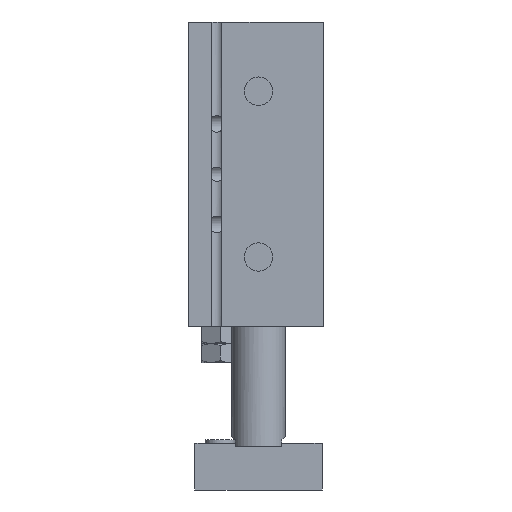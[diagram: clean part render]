
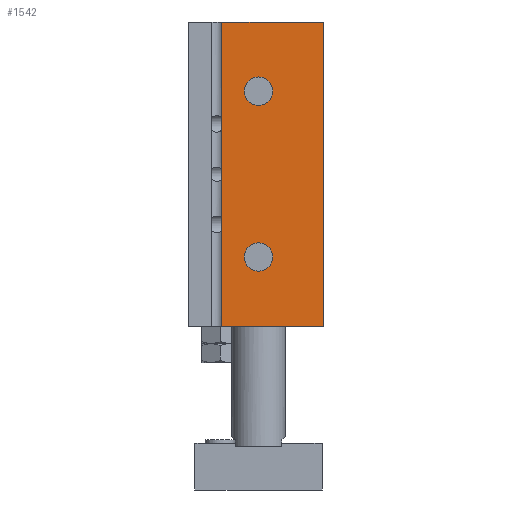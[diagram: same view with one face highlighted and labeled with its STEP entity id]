
A CAD part, front view. The second image highlights one B-rep face of the part: STEP entity #1542.
In plain terms, the highlighted planar face has unit normal (0, -1, 0).
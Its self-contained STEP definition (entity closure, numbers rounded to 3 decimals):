
#1380=CARTESIAN_POINT('',(-11.,-48.,140.0));
#1381=VERTEX_POINT('',#1380);
#1389=CARTESIAN_POINT('',(-11.,-48.,49.));
#1390=VERTEX_POINT('',#1389);
#1397=CARTESIAN_POINT('',(-11.,-48.,140.0));
#1398=DIRECTION('',(0.0,0.0,-1.0));
#1399=VECTOR('',#1398,91.);
#1400=LINE('',#1397,#1399);
#1401=EDGE_CURVE('',#1381,#1390,#1400,.T.);
#1490=CARTESIAN_POINT('',(19.5,-48.,49.0));
#1491=DIRECTION('',(0.0,-1.0,0.0));
#1492=DIRECTION('',(0.0,0.0,-1.0));
#1493=AXIS2_PLACEMENT_3D('',#1490,#1491,#1492);
#1494=PLANE('',#1493);
#1495=ORIENTED_EDGE('',*,*,#1401,.T.);
#1496=CARTESIAN_POINT('',(19.5,-48.,49.0));
#1497=VERTEX_POINT('',#1496);
#1498=CARTESIAN_POINT('',(19.5,-48.,49.0));
#1499=DIRECTION('',(-1.0,0.0,0.0));
#1500=VECTOR('',#1499,30.5);
#1501=LINE('',#1498,#1500);
#1502=EDGE_CURVE('',#1497,#1390,#1501,.T.);
#1503=ORIENTED_EDGE('',*,*,#1502,.F.);
#1504=CARTESIAN_POINT('',(19.5,-48.,140.0));
#1505=VERTEX_POINT('',#1504);
#1506=CARTESIAN_POINT('',(19.5,-48.,49.0));
#1507=DIRECTION('',(0.0,0.0,1.0));
#1508=VECTOR('',#1507,91.0);
#1509=LINE('',#1506,#1508);
#1510=EDGE_CURVE('',#1497,#1505,#1509,.T.);
#1511=ORIENTED_EDGE('',*,*,#1510,.T.);
#1512=CARTESIAN_POINT('',(19.5,-48.,140.0));
#1513=DIRECTION('',(-1.0,0.0,0.0));
#1514=VECTOR('',#1513,30.5);
#1515=LINE('',#1512,#1514);
#1516=EDGE_CURVE('',#1505,#1381,#1515,.T.);
#1517=ORIENTED_EDGE('',*,*,#1516,.T.);
#1518=EDGE_LOOP('',(#1495,#1503,#1511,#1517));
#1519=FACE_OUTER_BOUND('',#1518,.T.);
#1520=CARTESIAN_POINT('',(4.25,-48.,119.3));
#1521=VERTEX_POINT('',#1520);
#1522=CARTESIAN_POINT('',(0.0,-48.,119.3));
#1523=DIRECTION('',(0.0,1.0,0.0));
#1524=DIRECTION('',(-1.0,0.0,0.0));
#1525=AXIS2_PLACEMENT_3D('',#1522,#1523,#1524);
#1526=CIRCLE('',#1525,4.25);
#1527=EDGE_CURVE('',#1521,#1521,#1526,.T.);
#1528=ORIENTED_EDGE('',*,*,#1527,.T.);
#1529=EDGE_LOOP('',(#1528));
#1530=FACE_BOUND('',#1529,.T.);
#1531=CARTESIAN_POINT('',(4.25,-48.,69.7));
#1532=VERTEX_POINT('',#1531);
#1533=CARTESIAN_POINT('',(0.0,-48.,69.7));
#1534=DIRECTION('',(0.0,1.0,0.0));
#1535=DIRECTION('',(-1.0,0.0,0.0));
#1536=AXIS2_PLACEMENT_3D('',#1533,#1534,#1535);
#1537=CIRCLE('',#1536,4.25);
#1538=EDGE_CURVE('',#1532,#1532,#1537,.T.);
#1539=ORIENTED_EDGE('',*,*,#1538,.T.);
#1540=EDGE_LOOP('',(#1539));
#1541=FACE_BOUND('',#1540,.T.);
#1542=ADVANCED_FACE('',(#1519,#1530,#1541),#1494,.T.);
